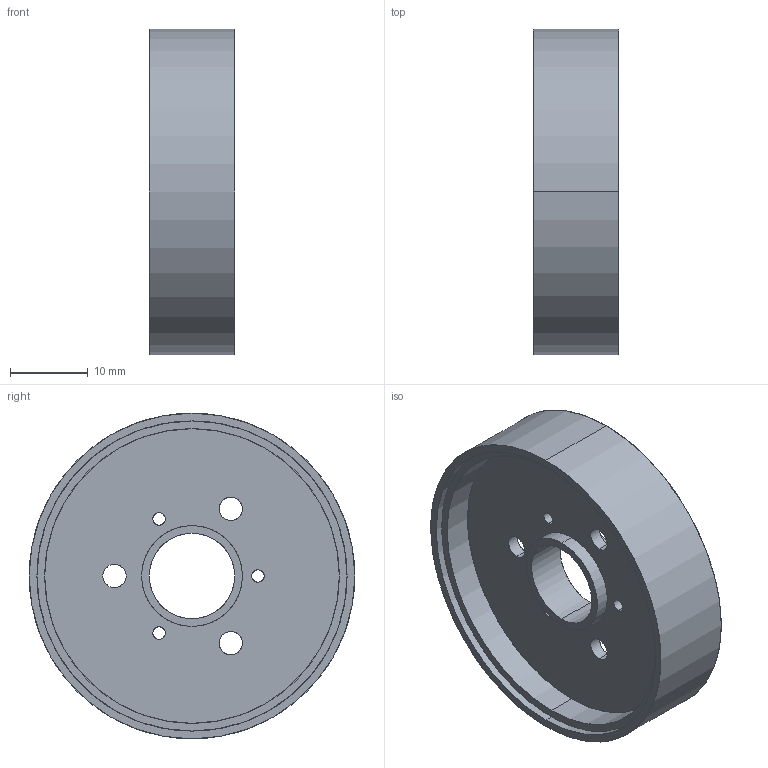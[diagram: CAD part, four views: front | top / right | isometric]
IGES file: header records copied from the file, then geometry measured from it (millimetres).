
Start section: SolidWorks IGES file using analytic representation for surfaces
Global section: file name: C:\Users\AndreBernot\Downloads\K-RACER-L_3D_SW\K-RACER-L_3D_SW\TAM-70145_jante.IGS; native system: SolidWorks 2015; preprocessor: SolidWorks 2015; author: AndreBernot; date: 170922.151626; units: millimetre
Bounding box: 11 x 42 x 42 mm (x, y, z)
Surface area: 5508.6 mm2 (no closed solid volume)
Topology: 0 solids, 0 shells, 36 faces, 1232 edges, 1232 vertices
Faces by surface type: revolution 28, bspline 8
